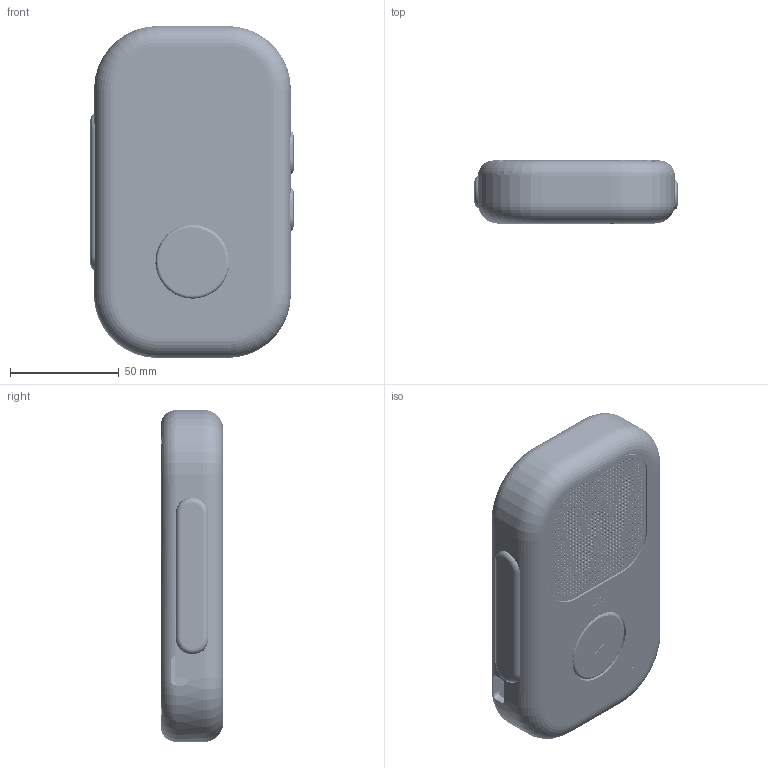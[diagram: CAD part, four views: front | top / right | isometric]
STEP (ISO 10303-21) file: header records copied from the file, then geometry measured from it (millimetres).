
FILE_DESCRIPTION(('Open CASCADE Model'),'2;1');
FILE_NAME('Walkie One 21.2 Astra R6 - engineering prototype', '2026-09-06T11:34:22',('Author'),('Open CASCADE'), 'Open CASCADE STEP processor 7.8','build123d','Unknown');
FILE_SCHEMA(('AUTOMOTIVE_DESIGN { 1 0 10303 214 1 1 1 1 }'));
Length unit declared in the file: millimetre
Products named in the file (107): Walkie One 21.2 Astra R6 - engineering prototype; front_chassis_PA12; rear_service_cover_PA12; front_grip_skin_finegrain_cream; rear_grip_skin_finegrain_cream_INSCRIBED; grille_W_perforated_0.8mm_charcoal; SOLID; ptt_cap_orange_72mm; vol_plus_cap_sage; vol_minus_cap_sage; play_action_cap_cream; status_lens_clear_diffusing; carrier_front_switch_fr4_handwired; carrier_left_ptt_fr4_handwired; carrier_right_vol_fr4_handwired; carrier_led_fr4_handwired; mic_clamp_bracket_PA12; ptt_pad_silicone_1; ptt_pad_silicone_2; vol_plus_pad_silicone; vol_minus_pad_silicone; play_pad_silicone; pcb_clamp_pad_silicone_1.0to0.8_1; pcb_clamp_pad_silicone_1.0to0.8_2; pcb_clamp_pad_silicone_1.0to0.8_3; pcb_clamp_pad_silicone_1.0to0.8_4; battery_foam_pad_PORON_3.0to2.5_1; battery_foam_pad_PORON_3.0to2.5_2; battery_foam_pad_PORON_3.0to2.5_3; battery_tray_foam_0.8to0.5; mic_foam_strip_3.0to2.8_1; mic_foam_strip_3.0to2.8_2; mic_duct_foam_gasket_2.3to1.9; speaker_rim_foam_gasket_1.3to1.0; lte_backing_adhesive_0.2; grille_perimeter_PSA_0.13; rear_grip_PSA_panel_0.13; front_grip_PSA_patch_0.13_1; front_grip_PSA_patch_0.13_2; front_grip_PSA_patch_0.13_3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
Assembly tree (106 placements, depth 3):
  Walkie One 21.2 Astra R6 - engineering prototype
    front_chassis_PA12
    rear_service_cover_PA12
    front_grip_skin_finegrain_cream
    rear_grip_skin_finegrain_cream_INSCRIBED
    grille_W_perforated_0.8mm_charcoal
      SOLID
    ptt_cap_orange_72mm
    vol_plus_cap_sage
    vol_minus_cap_sage
    play_action_cap_cream
    status_lens_clear_diffusing
    carrier_front_switch_fr4_handwired
    carrier_left_ptt_fr4_handwired
    carrier_right_vol_fr4_handwired
    carrier_led_fr4_handwired
    mic_clamp_bracket_PA12
    ptt_pad_silicone_1
      SOLID
    ptt_pad_silicone_2
      SOLID
    vol_plus_pad_silicone
      SOLID
    vol_minus_pad_silicone
      SOLID
    play_pad_silicone
      SOLID
    pcb_clamp_pad_silicone_1.0to0.8_1
      SOLID
    pcb_clamp_pad_silicone_1.0to0.8_2
      SOLID
    pcb_clamp_pad_silicone_1.0to0.8_3
      SOLID
    pcb_clamp_pad_silicone_1.0to0.8_4
      SOLID
    battery_foam_pad_PORON_3.0to2.5_1
      SOLID
    battery_foam_pad_PORON_3.0to2.5_2
      SOLID
    battery_foam_pad_PORON_3.0to2.5_3
      SOLID
    battery_tray_foam_0.8to0.5
      SOLID
    mic_foam_strip_3.0to2.8_1
      SOLID
    mic_foam_strip_3.0to2.8_2
      SOLID
    mic_duct_foam_gasket_2.3to1.9
    speaker_rim_foam_gasket_1.3to1.0
    lte_backing_adhesive_0.2
      SOLID
    grille_perimeter_PSA_0.13
      SOLID
    rear_grip_PSA_panel_0.13
      SOLID
    front_grip_PSA_patch_0.13_1
      SOLID
    front_grip_PSA_patch_0.13_2
      SOLID
    front_grip_PSA_patch_0.13_3
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Bounding box: 93.2 x 28.8 x 152.4 mm (x, y, z)
Volume: 129414.1 mm3; surface area: 173569 mm2
Topology: 68 solids, 68 shells, 6454 faces, 17943 edges, 11895 vertices
Faces by surface type: bspline 2310, plane 2238, cylinder 1349, extrusion 419, cone 84, torus 47, sphere 7
Full cylindrical faces by diameter (mm): 0.9 x452, 1.1 x85, 1.2 x2, 1.25 x73, 1.4 x111, 1.5 x1, 1.623 x56, 2 x14, 2.074 x56, 2.4 x10, 2.9 x14, 3 x2, 3.03 x14, 3.2 x28, 3.8 x14, 4.2 x4, 4.6 x4, 5 x4, 6 x1, 6.4 x6, 7.2 x4, 8 x1, 34.6 x1, 36 x1, 37 x1, 38.5 x1, 40 x1
Entity records: 709499 total; most frequent: CARTESIAN_POINT 388130, DIRECTION 43457, ORIENTED_EDGE 35876, PCURVE 35876, DEFINITIONAL_REPRESENTATION 35876, VECTOR 29202, LINE 28783, B_SPLINE_CURVE_WITH_KNOTS 20938
